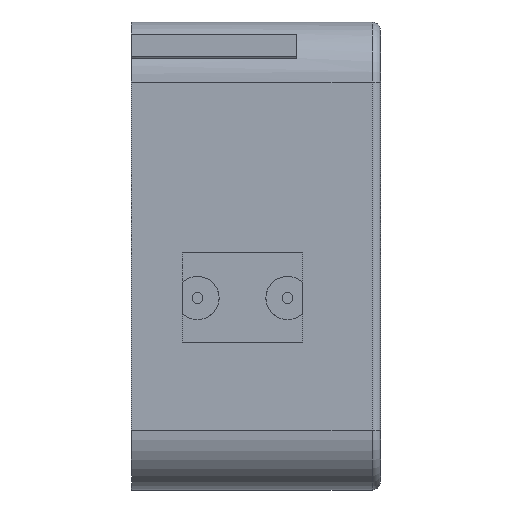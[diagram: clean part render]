
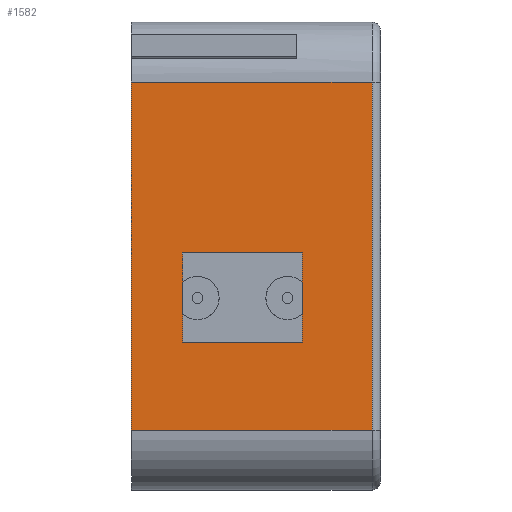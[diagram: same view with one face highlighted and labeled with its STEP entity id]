
A CAD part, left-side view. The second image highlights one B-rep face of the part: STEP entity #1582.
In plain terms, the highlighted planar face has unit normal (-1, 0, 0).
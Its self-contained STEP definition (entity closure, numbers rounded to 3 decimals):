
#44 = CYLINDRICAL_SURFACE('',#45,10.);
#45 = AXIS2_PLACEMENT_3D('',#46,#47,#48);
#46 = CARTESIAN_POINT('',(-55.,-16.,73.));
#47 = DIRECTION('',(0.,1.,0.));
#48 = DIRECTION('',(0.,-0.,1.));
#72 = PLANE('',#73);
#73 = AXIS2_PLACEMENT_3D('',#74,#75,#76);
#74 = CARTESIAN_POINT('',(0.,25.5,44.));
#75 = DIRECTION('',(0.,1.,0.));
#76 = DIRECTION('',(0.,-0.,1.));
#174 = VERTEX_POINT('',#175);
#175 = CARTESIAN_POINT('',(-65.,-14.6,73.));
#202 = EDGE_CURVE('',#203,#174,#205,.T.);
#203 = VERTEX_POINT('',#204);
#204 = CARTESIAN_POINT('',(-65.,25.5,73.));
#205 = SURFACE_CURVE('',#206,(#210,#217),.PCURVE_S1.);
#206 = LINE('',#207,#208);
#207 = CARTESIAN_POINT('',(-65.,25.5,73.));
#208 = VECTOR('',#209,1.);
#209 = DIRECTION('',(0.,-1.,0.));
#210 = PCURVE('',#44,#211);
#211 = DEFINITIONAL_REPRESENTATION('',(#212),#216);
#212 = LINE('',#213,#214);
#213 = CARTESIAN_POINT('',(-1.571,41.5));
#214 = VECTOR('',#215,1.);
#215 = DIRECTION('',(-0.,-1.));
#216 = ( GEOMETRIC_REPRESENTATION_CONTEXT(2) 
PARAMETRIC_REPRESENTATION_CONTEXT() REPRESENTATION_CONTEXT('2D SPACE',''
  ) );
#217 = PCURVE('',#218,#223);
#218 = PLANE('',#219);
#219 = AXIS2_PLACEMENT_3D('',#220,#221,#222);
#220 = CARTESIAN_POINT('',(-65.,-16.,5.));
#221 = DIRECTION('',(1.,0.,0.));
#222 = DIRECTION('',(0.,0.,1.));
#223 = DEFINITIONAL_REPRESENTATION('',(#224),#228);
#224 = LINE('',#225,#226);
#225 = CARTESIAN_POINT('',(68.,-41.5));
#226 = VECTOR('',#227,1.);
#227 = DIRECTION('',(0.,1.));
#228 = ( GEOMETRIC_REPRESENTATION_CONTEXT(2) 
PARAMETRIC_REPRESENTATION_CONTEXT() REPRESENTATION_CONTEXT('2D SPACE',''
  ) );
#559 = VERTEX_POINT('',#560);
#560 = CARTESIAN_POINT('',(-65.,25.5,15.));
#575 = CYLINDRICAL_SURFACE('',#576,10.);
#576 = AXIS2_PLACEMENT_3D('',#577,#578,#579);
#577 = CARTESIAN_POINT('',(-55.,-16.,15.));
#578 = DIRECTION('',(0.,1.,0.));
#579 = DIRECTION('',(0.,0.,-1.));
#587 = EDGE_CURVE('',#559,#203,#588,.T.);
#588 = SURFACE_CURVE('',#589,(#593,#600),.PCURVE_S1.);
#589 = LINE('',#590,#591);
#590 = CARTESIAN_POINT('',(-65.,25.5,15.));
#591 = VECTOR('',#592,1.);
#592 = DIRECTION('',(0.,0.,1.));
#593 = PCURVE('',#72,#594);
#594 = DEFINITIONAL_REPRESENTATION('',(#595),#599);
#595 = LINE('',#596,#597);
#596 = CARTESIAN_POINT('',(-29.,-65.));
#597 = VECTOR('',#598,1.);
#598 = DIRECTION('',(1.,0.));
#599 = ( GEOMETRIC_REPRESENTATION_CONTEXT(2) 
PARAMETRIC_REPRESENTATION_CONTEXT() REPRESENTATION_CONTEXT('2D SPACE',''
  ) );
#600 = PCURVE('',#218,#601);
#601 = DEFINITIONAL_REPRESENTATION('',(#602),#606);
#602 = LINE('',#603,#604);
#603 = CARTESIAN_POINT('',(10.,-41.5));
#604 = VECTOR('',#605,1.);
#605 = DIRECTION('',(1.,0.));
#606 = ( GEOMETRIC_REPRESENTATION_CONTEXT(2) 
PARAMETRIC_REPRESENTATION_CONTEXT() REPRESENTATION_CONTEXT('2D SPACE',''
  ) );
#1582 = ADVANCED_FACE('',(#1583,#1636),#218,.F.);
#1583 = FACE_BOUND('',#1584,.F.);
#1584 = EDGE_LOOP('',(#1585,#1613,#1634,#1635));
#1585 = ORIENTED_EDGE('',*,*,#1586,.F.);
#1586 = EDGE_CURVE('',#1587,#174,#1589,.T.);
#1587 = VERTEX_POINT('',#1588);
#1588 = CARTESIAN_POINT('',(-65.,-14.6,15.));
#1589 = SURFACE_CURVE('',#1590,(#1594,#1601),.PCURVE_S1.);
#1590 = LINE('',#1591,#1592);
#1591 = CARTESIAN_POINT('',(-65.,-14.6,15.));
#1592 = VECTOR('',#1593,1.);
#1593 = DIRECTION('',(0.,0.,1.));
#1594 = PCURVE('',#218,#1595);
#1595 = DEFINITIONAL_REPRESENTATION('',(#1596),#1600);
#1596 = LINE('',#1597,#1598);
#1597 = CARTESIAN_POINT('',(10.,-1.4));
#1598 = VECTOR('',#1599,1.);
#1599 = DIRECTION('',(1.,0.));
#1600 = ( GEOMETRIC_REPRESENTATION_CONTEXT(2) 
PARAMETRIC_REPRESENTATION_CONTEXT() REPRESENTATION_CONTEXT('2D SPACE',''
  ) );
#1601 = PCURVE('',#1602,#1607);
#1602 = CYLINDRICAL_SURFACE('',#1603,1.4);
#1603 = AXIS2_PLACEMENT_3D('',#1604,#1605,#1606);
#1604 = CARTESIAN_POINT('',(-63.6,-14.6,15.));
#1605 = DIRECTION('',(0.,0.,1.));
#1606 = DIRECTION('',(-1.,-0.,0.));
#1607 = DEFINITIONAL_REPRESENTATION('',(#1608),#1612);
#1608 = LINE('',#1609,#1610);
#1609 = CARTESIAN_POINT('',(0.,0.));
#1610 = VECTOR('',#1611,1.);
#1611 = DIRECTION('',(0.,1.));
#1612 = ( GEOMETRIC_REPRESENTATION_CONTEXT(2) 
PARAMETRIC_REPRESENTATION_CONTEXT() REPRESENTATION_CONTEXT('2D SPACE',''
  ) );
#1613 = ORIENTED_EDGE('',*,*,#1614,.F.);
#1614 = EDGE_CURVE('',#559,#1587,#1615,.T.);
#1615 = SURFACE_CURVE('',#1616,(#1620,#1627),.PCURVE_S1.);
#1616 = LINE('',#1617,#1618);
#1617 = CARTESIAN_POINT('',(-65.,25.5,15.));
#1618 = VECTOR('',#1619,1.);
#1619 = DIRECTION('',(0.,-1.,0.));
#1620 = PCURVE('',#218,#1621);
#1621 = DEFINITIONAL_REPRESENTATION('',(#1622),#1626);
#1622 = LINE('',#1623,#1624);
#1623 = CARTESIAN_POINT('',(10.,-41.5));
#1624 = VECTOR('',#1625,1.);
#1625 = DIRECTION('',(0.,1.));
#1626 = ( GEOMETRIC_REPRESENTATION_CONTEXT(2) 
PARAMETRIC_REPRESENTATION_CONTEXT() REPRESENTATION_CONTEXT('2D SPACE',''
  ) );
#1627 = PCURVE('',#575,#1628);
#1628 = DEFINITIONAL_REPRESENTATION('',(#1629),#1633);
#1629 = LINE('',#1630,#1631);
#1630 = CARTESIAN_POINT('',(1.571,41.5));
#1631 = VECTOR('',#1632,1.);
#1632 = DIRECTION('',(-0.,-1.));
#1633 = ( GEOMETRIC_REPRESENTATION_CONTEXT(2) 
PARAMETRIC_REPRESENTATION_CONTEXT() REPRESENTATION_CONTEXT('2D SPACE',''
  ) );
#1634 = ORIENTED_EDGE('',*,*,#587,.T.);
#1635 = ORIENTED_EDGE('',*,*,#202,.T.);
#1636 = FACE_BOUND('',#1637,.F.);
#1637 = EDGE_LOOP('',(#1638,#1666,#1692,#1718));
#1638 = ORIENTED_EDGE('',*,*,#1639,.T.);
#1639 = EDGE_CURVE('',#1640,#1642,#1644,.T.);
#1640 = VERTEX_POINT('',#1641);
#1641 = CARTESIAN_POINT('',(-65.,17.,29.5));
#1642 = VERTEX_POINT('',#1643);
#1643 = CARTESIAN_POINT('',(-65.,-3.,29.5));
#1644 = SURFACE_CURVE('',#1645,(#1649,#1655),.PCURVE_S1.);
#1645 = LINE('',#1646,#1647);
#1646 = CARTESIAN_POINT('',(-65.,-9.5,29.5));
#1647 = VECTOR('',#1648,1.);
#1648 = DIRECTION('',(0.,-1.,0.));
#1649 = PCURVE('',#218,#1650);
#1650 = DEFINITIONAL_REPRESENTATION('',(#1651),#1654);
#1651 = B_SPLINE_CURVE_WITH_KNOTS('',1,(#1652,#1653),.UNSPECIFIED.,.F.,
  .F.,(2,2),(-26.5,-6.5),.PIECEWISE_BEZIER_KNOTS.);
#1652 = CARTESIAN_POINT('',(24.5,-33.));
#1653 = CARTESIAN_POINT('',(24.5,-13.));
#1654 = ( GEOMETRIC_REPRESENTATION_CONTEXT(2) 
PARAMETRIC_REPRESENTATION_CONTEXT() REPRESENTATION_CONTEXT('2D SPACE',''
  ) );
#1655 = PCURVE('',#1656,#1661);
#1656 = PLANE('',#1657);
#1657 = AXIS2_PLACEMENT_3D('',#1658,#1659,#1660);
#1658 = CARTESIAN_POINT('',(-65.5,-3.,29.5));
#1659 = DIRECTION('',(0.,0.,1.));
#1660 = DIRECTION('',(1.,0.,0.));
#1661 = DEFINITIONAL_REPRESENTATION('',(#1662),#1665);
#1662 = B_SPLINE_CURVE_WITH_KNOTS('',1,(#1663,#1664),.UNSPECIFIED.,.F.,
  .F.,(2,2),(-26.5,-6.5),.PIECEWISE_BEZIER_KNOTS.);
#1663 = CARTESIAN_POINT('',(0.5,20.));
#1664 = CARTESIAN_POINT('',(0.5,0.));
#1665 = ( GEOMETRIC_REPRESENTATION_CONTEXT(2) 
PARAMETRIC_REPRESENTATION_CONTEXT() REPRESENTATION_CONTEXT('2D SPACE',''
  ) );
#1666 = ORIENTED_EDGE('',*,*,#1667,.T.);
#1667 = EDGE_CURVE('',#1642,#1668,#1670,.T.);
#1668 = VERTEX_POINT('',#1669);
#1669 = CARTESIAN_POINT('',(-65.,-3.,44.5));
#1670 = SURFACE_CURVE('',#1671,(#1675,#1681),.PCURVE_S1.);
#1671 = LINE('',#1672,#1673);
#1672 = CARTESIAN_POINT('',(-65.,-3.,17.25));
#1673 = VECTOR('',#1674,1.);
#1674 = DIRECTION('',(0.,0.,1.));
#1675 = PCURVE('',#218,#1676);
#1676 = DEFINITIONAL_REPRESENTATION('',(#1677),#1680);
#1677 = B_SPLINE_CURVE_WITH_KNOTS('',1,(#1678,#1679),.UNSPECIFIED.,.F.,
  .F.,(2,2),(12.25,27.25),.PIECEWISE_BEZIER_KNOTS.);
#1678 = CARTESIAN_POINT('',(24.5,-13.));
#1679 = CARTESIAN_POINT('',(39.5,-13.));
#1680 = ( GEOMETRIC_REPRESENTATION_CONTEXT(2) 
PARAMETRIC_REPRESENTATION_CONTEXT() REPRESENTATION_CONTEXT('2D SPACE',''
  ) );
#1681 = PCURVE('',#1682,#1687);
#1682 = PLANE('',#1683);
#1683 = AXIS2_PLACEMENT_3D('',#1684,#1685,#1686);
#1684 = CARTESIAN_POINT('',(-65.5,-3.,29.5));
#1685 = DIRECTION('',(0.,1.,0.));
#1686 = DIRECTION('',(0.,0.,1.));
#1687 = DEFINITIONAL_REPRESENTATION('',(#1688),#1691);
#1688 = B_SPLINE_CURVE_WITH_KNOTS('',1,(#1689,#1690),.UNSPECIFIED.,.F.,
  .F.,(2,2),(12.25,27.25),.PIECEWISE_BEZIER_KNOTS.);
#1689 = CARTESIAN_POINT('',(0.,0.5));
#1690 = CARTESIAN_POINT('',(15.,0.5));
#1691 = ( GEOMETRIC_REPRESENTATION_CONTEXT(2) 
PARAMETRIC_REPRESENTATION_CONTEXT() REPRESENTATION_CONTEXT('2D SPACE',''
  ) );
#1692 = ORIENTED_EDGE('',*,*,#1693,.F.);
#1693 = EDGE_CURVE('',#1694,#1668,#1696,.T.);
#1694 = VERTEX_POINT('',#1695);
#1695 = CARTESIAN_POINT('',(-65.,17.,44.5));
#1696 = SURFACE_CURVE('',#1697,(#1701,#1707),.PCURVE_S1.);
#1697 = LINE('',#1698,#1699);
#1698 = CARTESIAN_POINT('',(-65.,-9.5,44.5));
#1699 = VECTOR('',#1700,1.);
#1700 = DIRECTION('',(0.,-1.,0.));
#1701 = PCURVE('',#218,#1702);
#1702 = DEFINITIONAL_REPRESENTATION('',(#1703),#1706);
#1703 = B_SPLINE_CURVE_WITH_KNOTS('',1,(#1704,#1705),.UNSPECIFIED.,.F.,
  .F.,(2,2),(-26.5,-6.5),.PIECEWISE_BEZIER_KNOTS.);
#1704 = CARTESIAN_POINT('',(39.5,-33.));
#1705 = CARTESIAN_POINT('',(39.5,-13.));
#1706 = ( GEOMETRIC_REPRESENTATION_CONTEXT(2) 
PARAMETRIC_REPRESENTATION_CONTEXT() REPRESENTATION_CONTEXT('2D SPACE',''
  ) );
#1707 = PCURVE('',#1708,#1713);
#1708 = PLANE('',#1709);
#1709 = AXIS2_PLACEMENT_3D('',#1710,#1711,#1712);
#1710 = CARTESIAN_POINT('',(-65.5,-3.,44.5));
#1711 = DIRECTION('',(0.,0.,1.));
#1712 = DIRECTION('',(1.,0.,0.));
#1713 = DEFINITIONAL_REPRESENTATION('',(#1714),#1717);
#1714 = B_SPLINE_CURVE_WITH_KNOTS('',1,(#1715,#1716),.UNSPECIFIED.,.F.,
  .F.,(2,2),(-26.5,-6.5),.PIECEWISE_BEZIER_KNOTS.);
#1715 = CARTESIAN_POINT('',(0.5,20.));
#1716 = CARTESIAN_POINT('',(0.5,0.));
#1717 = ( GEOMETRIC_REPRESENTATION_CONTEXT(2) 
PARAMETRIC_REPRESENTATION_CONTEXT() REPRESENTATION_CONTEXT('2D SPACE',''
  ) );
#1718 = ORIENTED_EDGE('',*,*,#1719,.F.);
#1719 = EDGE_CURVE('',#1640,#1694,#1720,.T.);
#1720 = SURFACE_CURVE('',#1721,(#1725,#1731),.PCURVE_S1.);
#1721 = LINE('',#1722,#1723);
#1722 = CARTESIAN_POINT('',(-65.,17.,17.25));
#1723 = VECTOR('',#1724,1.);
#1724 = DIRECTION('',(0.,0.,1.));
#1725 = PCURVE('',#218,#1726);
#1726 = DEFINITIONAL_REPRESENTATION('',(#1727),#1730);
#1727 = B_SPLINE_CURVE_WITH_KNOTS('',1,(#1728,#1729),.UNSPECIFIED.,.F.,
  .F.,(2,2),(12.25,27.25),.PIECEWISE_BEZIER_KNOTS.);
#1728 = CARTESIAN_POINT('',(24.5,-33.));
#1729 = CARTESIAN_POINT('',(39.5,-33.));
#1730 = ( GEOMETRIC_REPRESENTATION_CONTEXT(2) 
PARAMETRIC_REPRESENTATION_CONTEXT() REPRESENTATION_CONTEXT('2D SPACE',''
  ) );
#1731 = PCURVE('',#1732,#1737);
#1732 = PLANE('',#1733);
#1733 = AXIS2_PLACEMENT_3D('',#1734,#1735,#1736);
#1734 = CARTESIAN_POINT('',(-65.5,17.,29.5));
#1735 = DIRECTION('',(0.,1.,0.));
#1736 = DIRECTION('',(0.,0.,1.));
#1737 = DEFINITIONAL_REPRESENTATION('',(#1738),#1741);
#1738 = B_SPLINE_CURVE_WITH_KNOTS('',1,(#1739,#1740),.UNSPECIFIED.,.F.,
  .F.,(2,2),(12.25,27.25),.PIECEWISE_BEZIER_KNOTS.);
#1739 = CARTESIAN_POINT('',(0.,0.5));
#1740 = CARTESIAN_POINT('',(15.,0.5));
#1741 = ( GEOMETRIC_REPRESENTATION_CONTEXT(2) 
PARAMETRIC_REPRESENTATION_CONTEXT() REPRESENTATION_CONTEXT('2D SPACE',''
  ) );
